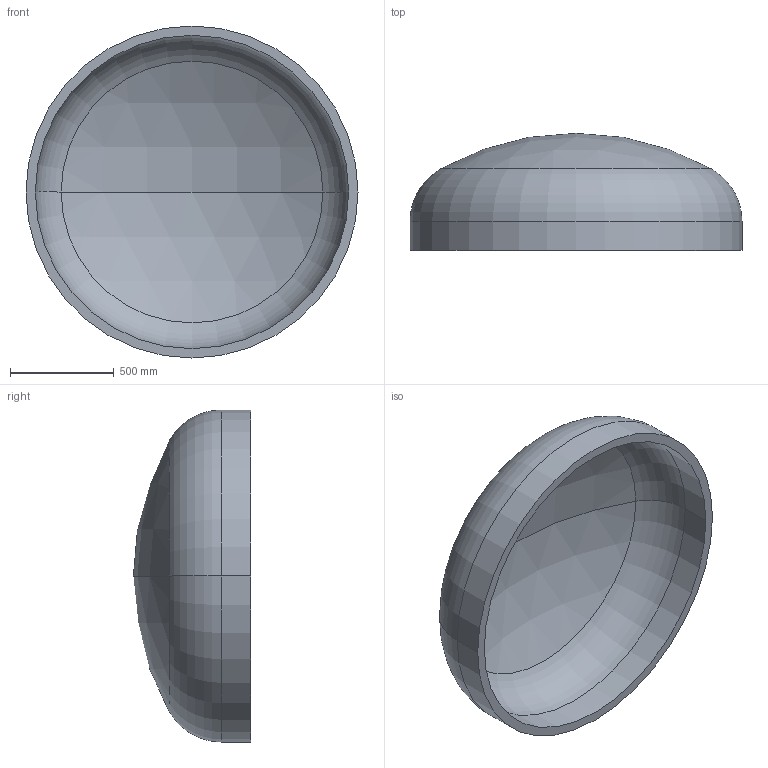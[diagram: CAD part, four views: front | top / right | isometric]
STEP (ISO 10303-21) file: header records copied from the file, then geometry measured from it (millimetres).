
FILE_DESCRIPTION (( 'STEP AP203' ), '1' );
FILE_NAME ('DIN 28013 Korbbogenform_-_Boden DIN 28013 - 1600 x 140 - I - s=45.step', '2016-07-01T11:17:30', ( '' ), ( '' ), 'SwSTEP 2.0', 'SolidWorks 2013', '' );
FILE_SCHEMA (( 'CONFIG_CONTROL_DESIGN' ));
Length unit declared in the file: millimetre
Products named in the file (1): DIN 28013 Korbbogenform_-_Boden DIN 28013 - 1600 x 140 - I - s=45
Bounding box: 1600 x 564.38 x 1600 mm (x, y, z)
Volume: 151422237 mm3; surface area: 6953949.4 mm2
Topology: 1 solids, 1 shells, 13 faces, 24 edges, 14 vertices
Faces by surface type: torus 4, cylinder 4, sphere 4, plane 1
Entity records: 407 total; most frequent: DIRECTION 72, CARTESIAN_POINT 52, ORIENTED_EDGE 48, AXIS2_PLACEMENT_3D 34, EDGE_CURVE 24, CIRCLE 20, VERTEX_POINT 14, EDGE_LOOP 14
